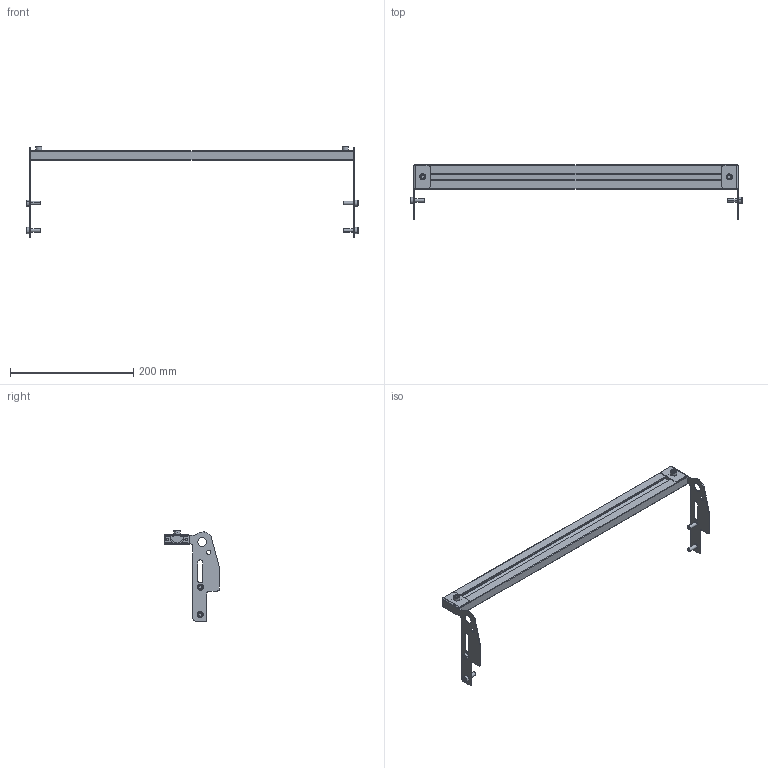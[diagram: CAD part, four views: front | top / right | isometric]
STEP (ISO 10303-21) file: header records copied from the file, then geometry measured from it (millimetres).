
FILE_DESCRIPTION((''),'2;1');
FILE_NAME('207213-20_ASM','2017-04-27T',('jenni.wallner'),(''),'PRO/ENGINEER BY PARAMETRIC TECHNOLOGY CORPORATION, 2012420','PRO/ENGINEER BY PARAMETRIC TECHNOLOGY CORPORATION, 2012420','');
FILE_SCHEMA(('CONFIG_CONTROL_DESIGN'));
Length unit declared in the file: inch
Products named in the file (8): 9206XXM_920618M; 834-FASN-M6; 207130-RH; 207130-LH; 9206XXM_920612M; 207216-WW_207216-20; ASM0001_ASM; 207213-20_ASM
Assembly tree (12 placements, depth 3):
  207213-20_ASM
    ASM0001_ASM
      9206XXM_920618M  x4
      834-FASN-M6  x2
      207130-RH
      207130-LH
      9206XXM_920612M  x2
      207216-WW_207216-20
Bounding box: 539.35 x 88.64 x 147.88 mm (x, y, z)
Volume: 166847.7 mm3; surface area: 154403.9 mm2
Topology: 11 solids, 11 shells, 342 faces, 837 edges, 529 vertices
Faces by surface type: plane 148, cylinder 128, cone 66
Entity records: 7805 total; most frequent: CARTESIAN_POINT 1502, DIRECTION 1354, ORIENTED_EDGE 1246, EDGE_CURVE 623, AXIS2_PLACEMENT_3D 502, VERTEX_POINT 405, VECTOR 350, LINE 350
